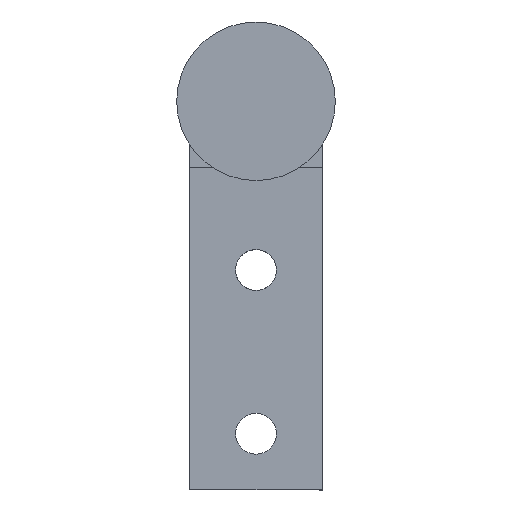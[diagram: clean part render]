
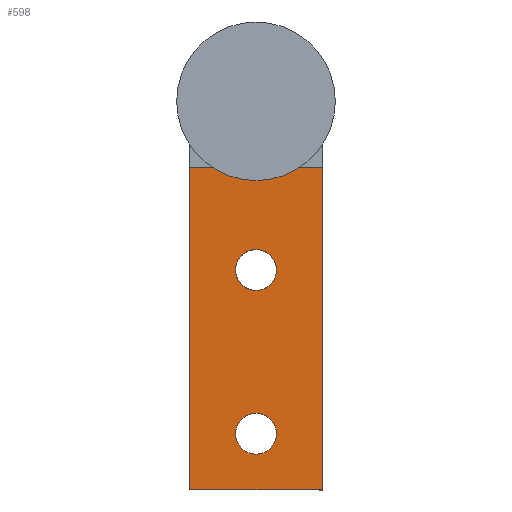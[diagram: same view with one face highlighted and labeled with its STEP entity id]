
A CAD part, front view. The second image highlights one B-rep face of the part: STEP entity #598.
In plain terms, the highlighted planar face has unit normal (0, -1, 0).
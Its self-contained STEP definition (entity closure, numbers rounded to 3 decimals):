
#18 = VERTEX_POINT ( 'NONE', #568 ) ;
#21 = VERTEX_POINT ( 'NONE', #516 ) ;
#23 = VERTEX_POINT ( 'NONE', #514 ) ;
#26 = VERTEX_POINT ( 'NONE', #556 ) ;
#28 = VERTEX_POINT ( 'NONE', #508 ) ;
#29 = VERTEX_POINT ( 'NONE', #507 ) ;
#33 = VERTEX_POINT ( 'NONE', #503 ) ;
#41 = VERTEX_POINT ( 'NONE', #548 ) ;
#52 = LINE ( 'NONE', #398, #65 ) ;
#53 = VECTOR ( 'NONE', #353, 1000. ) ;
#55 = LINE ( 'NONE', #333, #53 ) ;
#56 = CIRCLE ( 'NONE', #279, 2. ) ;
#57 = VECTOR ( 'NONE', #332, 1000. ) ;
#61 = VECTOR ( 'NONE', #531, 1000. ) ;
#65 = VECTOR ( 'NONE', #392, 1000. ) ;
#69 = CIRCLE ( 'NONE', #243, 2. ) ;
#70 = LINE ( 'NONE', #331, #57 ) ;
#81 = CIRCLE ( 'NONE', #193, 2. ) ;
#82 = CIRCLE ( 'NONE', #211, 2. ) ;
#135 = FACE_OUTER_BOUND ( 'NONE', #743, .T. ) ;
#144 = FACE_BOUND ( 'NONE', #621, .T. ) ;
#145 = FACE_BOUND ( 'NONE', #670, .T. ) ;
#193 = AXIS2_PLACEMENT_3D ( 'NONE', #526, #578, #576 ) ;
#200 = EDGE_CURVE ( 'NONE', #29, #28, #623, .T. ) ;
#211 = AXIS2_PLACEMENT_3D ( 'NONE', #523, #574, #575 ) ;
#241 = EDGE_CURVE ( 'NONE', #18, #23, #82, .T. ) ;
#243 = AXIS2_PLACEMENT_3D ( 'NONE', #348, #321, #338 ) ;
#244 = EDGE_CURVE ( 'NONE', #23, #18, #81, .T. ) ;
#262 = EDGE_CURVE ( 'NONE', #21, #26, #69, .T. ) ;
#271 = EDGE_CURVE ( 'NONE', #26, #21, #56, .T. ) ;
#275 = EDGE_CURVE ( 'NONE', #41, #33, #70, .T. ) ;
#277 = EDGE_CURVE ( 'NONE', #41, #29, #55, .T. ) ;
#279 = AXIS2_PLACEMENT_3D ( 'NONE', #328, #329, #330 ) ;
#280 = EDGE_CURVE ( 'NONE', #33, #28, #52, .T. ) ;
#287 = AXIS2_PLACEMENT_3D ( 'NONE', #479, #485, #484 ) ;
#321 = DIRECTION ( 'NONE',  ( 0., -1., 0. ) ) ;
#328 = CARTESIAN_POINT ( 'NONE',  ( 0., 539.8, -32.5 ) ) ;
#329 = DIRECTION ( 'NONE',  ( 0., -1., 0. ) ) ;
#330 = DIRECTION ( 'NONE',  ( -1., 0., 0. ) ) ;
#331 = CARTESIAN_POINT ( 'NONE',  ( 6.5, 539.8, -38. ) ) ;
#332 = DIRECTION ( 'NONE',  ( 0., 0., 1. ) ) ;
#333 = CARTESIAN_POINT ( 'NONE',  ( 6.5, 539.8, -38. ) ) ;
#338 = DIRECTION ( 'NONE',  ( -1., 0., 0. ) ) ;
#348 = CARTESIAN_POINT ( 'NONE',  ( 0., 539.8, -32.5 ) ) ;
#353 = DIRECTION ( 'NONE',  ( -1., 0., 0. ) ) ;
#392 = DIRECTION ( 'NONE',  ( -1., 0., 0. ) ) ;
#398 = CARTESIAN_POINT ( 'NONE',  ( 6.5, 539.8, -6.5 ) ) ;
#471 = PLANE ( 'NONE',  #287 ) ;
#479 = CARTESIAN_POINT ( 'NONE',  ( 6.5, 539.8, -38. ) ) ;
#484 = DIRECTION ( 'NONE',  ( -1., 0., 0. ) ) ;
#485 = DIRECTION ( 'NONE',  ( 0., -1., 0. ) ) ;
#503 = CARTESIAN_POINT ( 'NONE',  ( 6.5, 539.8, -6.5 ) ) ;
#507 = CARTESIAN_POINT ( 'NONE',  ( -6.5, 539.8, -38. ) ) ;
#508 = CARTESIAN_POINT ( 'NONE',  ( -6.5, 539.8, -6.5 ) ) ;
#514 = CARTESIAN_POINT ( 'NONE',  ( 2., 539.8, -16.5 ) ) ;
#516 = CARTESIAN_POINT ( 'NONE',  ( -2., 539.8, -32.5 ) ) ;
#523 = CARTESIAN_POINT ( 'NONE',  ( 0., 539.8, -16.5 ) ) ;
#526 = CARTESIAN_POINT ( 'NONE',  ( 0., 539.8, -16.5 ) ) ;
#531 = DIRECTION ( 'NONE',  ( 0., 0., 1. ) ) ;
#532 = CARTESIAN_POINT ( 'NONE',  ( -6.5, 539.8, -38. ) ) ;
#548 = CARTESIAN_POINT ( 'NONE',  ( 6.5, 539.8, -38. ) ) ;
#556 = CARTESIAN_POINT ( 'NONE',  ( 2., 539.8, -32.5 ) ) ;
#568 = CARTESIAN_POINT ( 'NONE',  ( -2., 539.8, -16.5 ) ) ;
#574 = DIRECTION ( 'NONE',  ( 0., -1., 0. ) ) ;
#575 = DIRECTION ( 'NONE',  ( -1., 0., 0. ) ) ;
#576 = DIRECTION ( 'NONE',  ( -1., 0., 0. ) ) ;
#578 = DIRECTION ( 'NONE',  ( 0., -1., 0. ) ) ;
#598 = ADVANCED_FACE ( 'NONE', ( #145, #144, #135 ), #471, .T. ) ;
#609 = ORIENTED_EDGE ( 'NONE', *, *, #244, .F. ) ;
#621 = EDGE_LOOP ( 'NONE', ( #755, #716 ) ) ;
#623 = LINE ( 'NONE', #532, #61 ) ;
#628 = ORIENTED_EDGE ( 'NONE', *, *, #241, .F. ) ;
#631 = ORIENTED_EDGE ( 'NONE', *, *, #275, .T. ) ;
#634 = ORIENTED_EDGE ( 'NONE', *, *, #277, .F. ) ;
#670 = EDGE_LOOP ( 'NONE', ( #628, #609 ) ) ;
#710 = ORIENTED_EDGE ( 'NONE', *, *, #200, .F. ) ;
#716 = ORIENTED_EDGE ( 'NONE', *, *, #271, .F. ) ;
#743 = EDGE_LOOP ( 'NONE', ( #749, #710, #634, #631 ) ) ;
#749 = ORIENTED_EDGE ( 'NONE', *, *, #280, .T. ) ;
#755 = ORIENTED_EDGE ( 'NONE', *, *, #262, .F. ) ;
